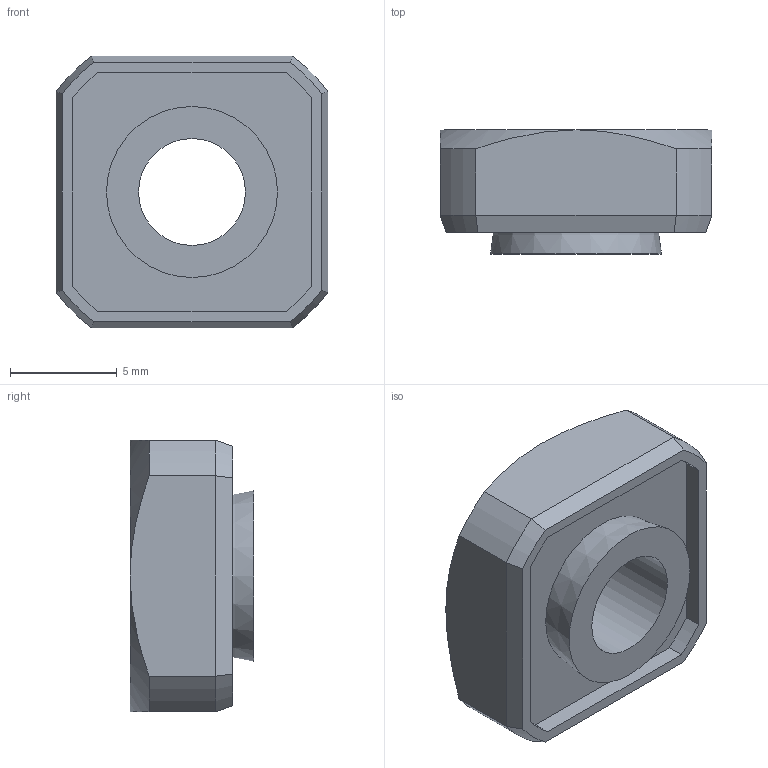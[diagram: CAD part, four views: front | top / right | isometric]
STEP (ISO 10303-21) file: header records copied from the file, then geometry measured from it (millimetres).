
FILE_DESCRIPTION(/* description */ (''),/* implementation_level */ '2;1');
FILE_NAME(/* name */ 'D:\Sukhmani\Fastit\KP Nut\KP 6- H-M5.stp',/* time_stamp */ '2024-03-14T12:25:04+06:00',/* author */ ('edc.sukhmani'),/* organization */ (''),/* preprocessor_version */ 'ST-DEVELOPER v18.1',/* originating_system */ 'Autodesk Inventor 2022',/* authorisation */ '');
FILE_SCHEMA (('AUTOMOTIVE_DESIGN { 1 0 10303 214 3 1 1 }'));
Length unit declared in the file: millimetre
Products named in the file (1): KP 6- H-M5
Bounding box: 12.72 x 5.8 x 12.72 mm (x, y, z)
Volume: 605.6 mm3; surface area: 644.2 mm2
Topology: 1 solids, 1 shells, 36 faces, 84 edges, 52 vertices
Faces by surface type: plane 16, cone 10, cylinder 10
Full cylindrical faces by diameter (mm): 5 x1, 6 x1
Entity records: 1055 total; most frequent: CARTESIAN_POINT 205, DIRECTION 174, ORIENTED_EDGE 168, EDGE_CURVE 84, AXIS2_PLACEMENT_3D 69, VERTEX_POINT 52, EDGE_LOOP 40, FACE_OUTER_BOUND 36
